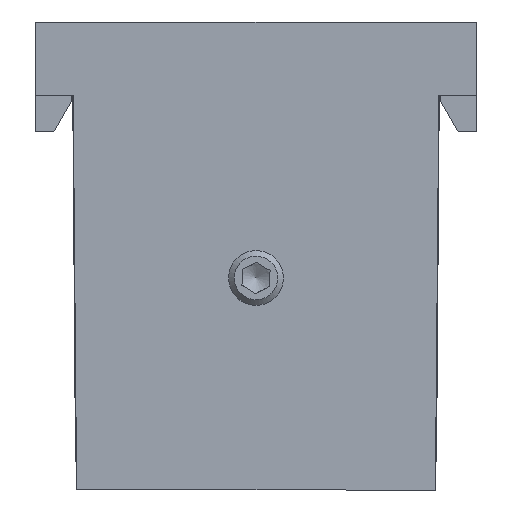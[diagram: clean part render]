
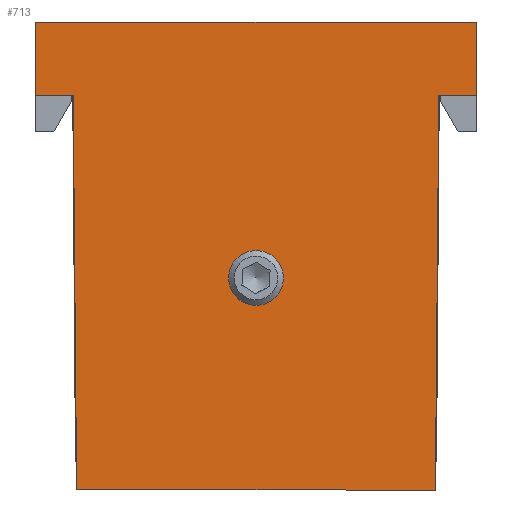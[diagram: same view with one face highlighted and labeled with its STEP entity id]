
A CAD part, front view. The second image highlights one B-rep face of the part: STEP entity #713.
In plain terms, the highlighted planar face has unit normal (0, -1, 0).
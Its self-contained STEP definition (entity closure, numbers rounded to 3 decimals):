
#164=CARTESIAN_POINT('',(-10.,-12.05,0.));
#165=VERTEX_POINT('',#164);
#172=CARTESIAN_POINT('',(-12.05,-12.05,0.));
#173=VERTEX_POINT('',#172);
#174=CARTESIAN_POINT('',(-12.05,-12.05,0.));
#175=DIRECTION('',(1.0,0.0,0.0));
#176=VECTOR('',#175,2.05);
#177=LINE('',#174,#176);
#178=EDGE_CURVE('',#173,#165,#177,.T.);
#526=CARTESIAN_POINT('',(12.05,-12.05,0.));
#527=VERTEX_POINT('',#526);
#534=CARTESIAN_POINT('',(10.,-12.05,0.));
#535=VERTEX_POINT('',#534);
#536=CARTESIAN_POINT('',(10.,-12.05,0.));
#537=DIRECTION('',(1.0,0.0,0.0));
#538=VECTOR('',#537,2.05);
#539=LINE('',#536,#538);
#540=EDGE_CURVE('',#535,#527,#539,.T.);
#649=CARTESIAN_POINT('',(-12.05,-12.05,4.));
#650=DIRECTION('',(0.0,-1.0,0.0));
#651=DIRECTION('',(0.0,0.0,-1.0));
#652=AXIS2_PLACEMENT_3D('',#649,#650,#651);
#653=PLANE('',#652);
#654=CARTESIAN_POINT('',(9.811,-12.05,-21.6));
#655=VERTEX_POINT('',#654);
#656=CARTESIAN_POINT('',(9.811,-12.05,-21.6));
#657=DIRECTION('',(0.009,0.,1.));
#658=VECTOR('',#657,21.601);
#659=LINE('',#656,#658);
#660=EDGE_CURVE('',#655,#535,#659,.T.);
#661=ORIENTED_EDGE('',*,*,#660,.T.);
#662=ORIENTED_EDGE('',*,*,#540,.T.);
#663=CARTESIAN_POINT('',(12.05,-12.05,4.));
#664=VERTEX_POINT('',#663);
#665=CARTESIAN_POINT('',(12.05,-12.05,4.));
#666=DIRECTION('',(0.0,0.0,-1.0));
#667=VECTOR('',#666,4.0);
#668=LINE('',#665,#667);
#669=EDGE_CURVE('',#664,#527,#668,.T.);
#670=ORIENTED_EDGE('',*,*,#669,.F.);
#671=CARTESIAN_POINT('',(-12.05,-12.05,4.));
#672=VERTEX_POINT('',#671);
#673=CARTESIAN_POINT('',(-12.05,-12.05,4.));
#674=DIRECTION('',(1.0,0.0,0.0));
#675=VECTOR('',#674,24.1);
#676=LINE('',#673,#675);
#677=EDGE_CURVE('',#672,#664,#676,.T.);
#678=ORIENTED_EDGE('',*,*,#677,.F.);
#679=CARTESIAN_POINT('',(-12.05,-12.05,4.));
#680=DIRECTION('',(0.0,0.0,-1.0));
#681=VECTOR('',#680,4.0);
#682=LINE('',#679,#681);
#683=EDGE_CURVE('',#672,#173,#682,.T.);
#684=ORIENTED_EDGE('',*,*,#683,.T.);
#685=ORIENTED_EDGE('',*,*,#178,.T.);
#686=CARTESIAN_POINT('',(-9.811,-12.05,-21.6));
#687=VERTEX_POINT('',#686);
#688=CARTESIAN_POINT('',(-10.,-12.05,0.));
#689=DIRECTION('',(0.009,0.,-1.));
#690=VECTOR('',#689,21.601);
#691=LINE('',#688,#690);
#692=EDGE_CURVE('',#165,#687,#691,.T.);
#693=ORIENTED_EDGE('',*,*,#692,.T.);
#694=CARTESIAN_POINT('',(-9.811,-12.05,-21.6));
#695=DIRECTION('',(1.0,0.0,0.0));
#696=VECTOR('',#695,19.623);
#697=LINE('',#694,#696);
#698=EDGE_CURVE('',#687,#655,#697,.T.);
#699=ORIENTED_EDGE('',*,*,#698,.T.);
#700=EDGE_LOOP('',(#661,#662,#670,#678,#684,#685,#693,#699));
#701=FACE_OUTER_BOUND('',#700,.T.);
#702=CARTESIAN_POINT('',(1.264,-12.05,-10.808));
#703=VERTEX_POINT('',#702);
#704=CARTESIAN_POINT('',(0.,-12.05,-10.));
#705=DIRECTION('',(0.,-1.0,0.));
#706=DIRECTION('',(-0.842,0.,0.539));
#707=AXIS2_PLACEMENT_3D('',#704,#705,#706);
#708=CIRCLE('',#707,1.5);
#709=EDGE_CURVE('',#703,#703,#708,.T.);
#710=ORIENTED_EDGE('',*,*,#709,.F.);
#711=EDGE_LOOP('',(#710));
#712=FACE_BOUND('',#711,.T.);
#713=ADVANCED_FACE('',(#701,#712),#653,.T.);
